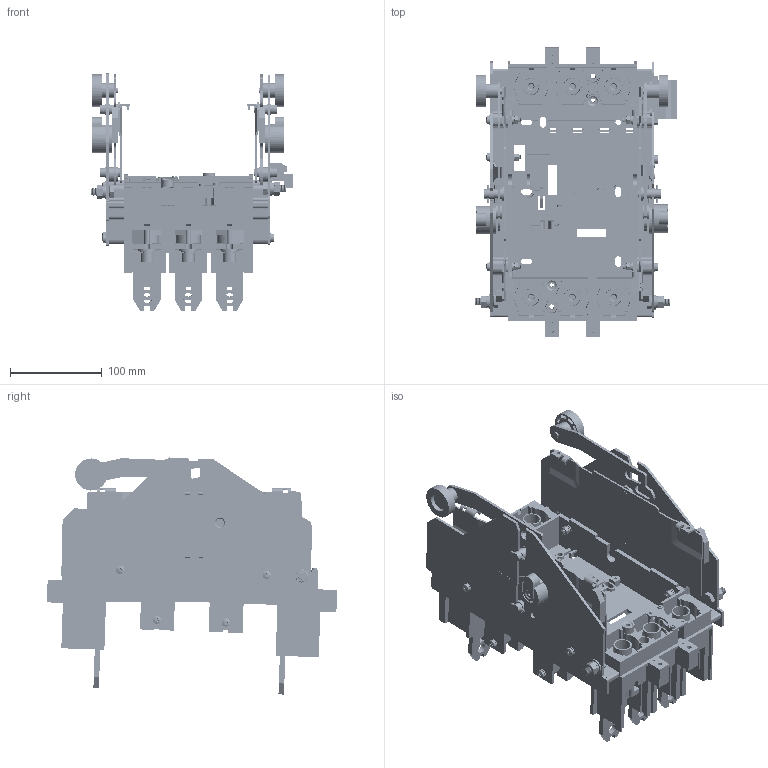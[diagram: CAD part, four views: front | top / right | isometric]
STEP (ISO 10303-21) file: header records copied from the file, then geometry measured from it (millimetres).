
FILE_DESCRIPTION(/* description */ (''),/* implementation_level */ '2;1');
FILE_NAME(/* name */ 'NSX400-630 插入式 板后型.stp',/* time_stamp */ '2024-03-08T13:52:17+08:00',/* author */ (''),/* organization */ (''),/* preprocessor_version */ 'ST-DEVELOPER v16',/* originating_system */ 'SIEMENS PLM Software NX 10.0',/* authorisation */ '');
FILE_SCHEMA (('AUTOMOTIVE_DESIGN { 1 0 10303 214 3 1 1 1 }'));
Products named in the file (1): midi4594E29507jr
Bounding box: 221.1 x 316.66 x 258.64 mm (x, y, z)
Surface area: 794164.8 mm2
Topology: 10 solids, 11 shells, 5901 faces, 16312 edges, 10296 vertices
Faces by surface type: plane 2778, cylinder 1447, cone 1276, torus 302, bspline 68, extrusion 18, sphere 12
Full cylindrical faces by diameter (mm): 2.5 x16, 3 x15, 3.4 x8, 4.2 x4, 4.448 x2, 4.462 x2, 4.5 x4, 4.6 x4, 5 x409, 5.2 x10, 5.4 x8, 5.5 x16, 5.7 x6, 5.9 x2, 6 x13, 6.889 x2, 7 x6, 7.911 x2, 8 x40, 8.185 x2, 8.5 x6, 8.68 x2, 8.8 x4, 9 x24, 9.2 x2, 9.5 x2, 10 x38, 10.5 x12, 11 x8, 11.5 x2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
Entity records: 186267 total; most frequent: CARTESIAN_POINT 41094, DIRECTION 30688, ORIENTED_EDGE 28498, EDGE_CURVE 14249, AXIS2_PLACEMENT_3D 11715, VERTEX_POINT 10102, EDGE_LOOP 8305, VECTOR 7258
